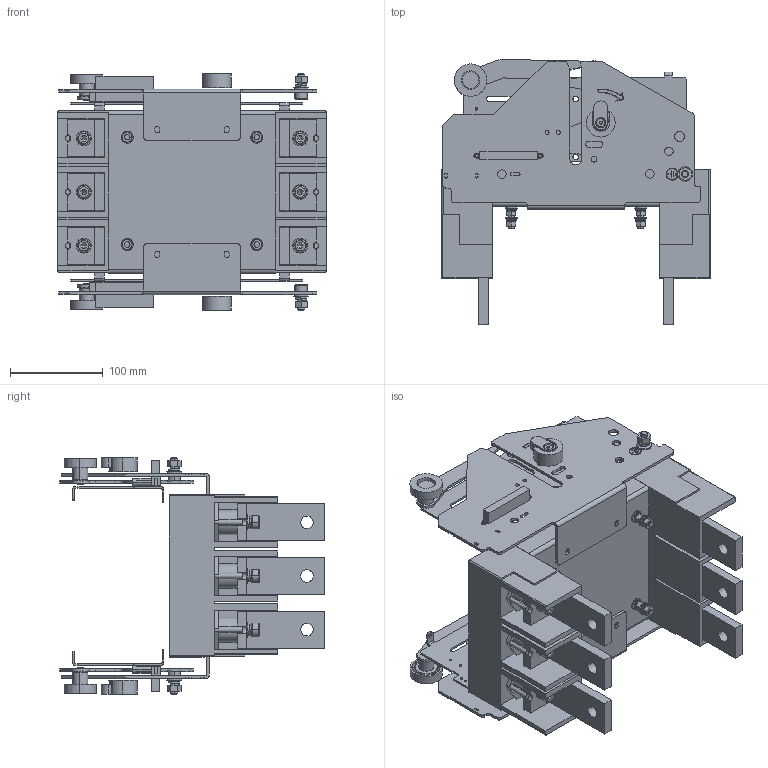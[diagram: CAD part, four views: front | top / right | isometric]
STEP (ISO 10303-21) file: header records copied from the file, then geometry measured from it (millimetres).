
FILE_DESCRIPTION (( 'STEP AP214' ), '1' );
FILE_NAME ('TGM1NE-DOB-630s.stp', '2026-07-06T06:49:54', ( '' ), ( '' ), 'SwSTEP 2.0', 'SolidWorks 2024', '' );
FILE_SCHEMA (( 'AUTOMOTIVE_DESIGN' ));
Length unit declared in the file: millimetre
Products named in the file (2): TGM1NE-DOB-630s
Assembly tree (1 placements, depth 2):
  TGM1NE-DOB-630s
    TGM1NE-DOB-630s
Bounding box: 290 x 286.38 x 256 mm (x, y, z)
Volume: 2244732 mm3; surface area: 827358.2 mm2
Topology: 77 solids, 95 shells, 2574 faces, 6620 edges, 4370 vertices
Faces by surface type: plane 1316, cylinder 868, bspline 218, torus 80, cone 60, sphere 32
Entity records: 88129 total; most frequent: CARTESIAN_POINT 23598, ORIENTED_EDGE 13240, DIRECTION 13050, EDGE_CURVE 6620, AXIS2_PLACEMENT_3D 4568, VERTEX_POINT 4370, VECTOR 3914, LINE 3914
